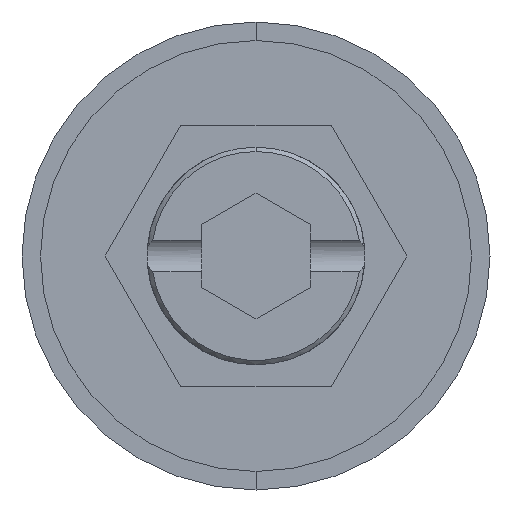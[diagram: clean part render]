
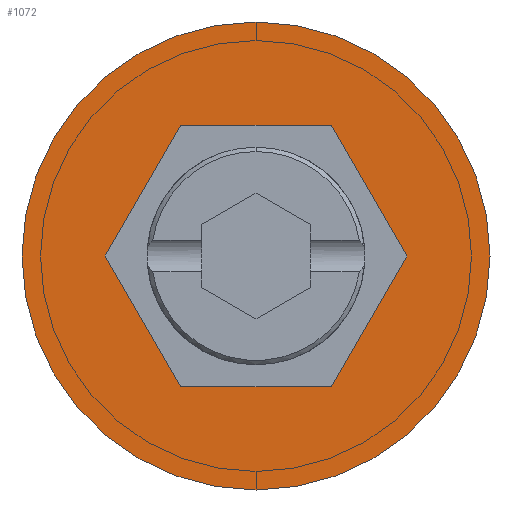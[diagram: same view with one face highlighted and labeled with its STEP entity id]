
A CAD part, front view. The second image highlights one B-rep face of the part: STEP entity #1072.
In plain terms, the highlighted planar face has unit normal (0, -1, 0).
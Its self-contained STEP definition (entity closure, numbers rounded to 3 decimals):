
#46 = CARTESIAN_POINT ( 'NONE',  ( 0., 0., 10.75 ) ) ;
#50 = EDGE_CURVE ( 'NONE', #1748, #2158, #1175, .T. ) ;
#86 = LINE ( 'NONE', #592, #110 ) ;
#94 = PLANE ( 'NONE',  #2105 ) ;
#101 = AXIS2_PLACEMENT_3D ( 'NONE', #620, #629, #630 ) ;
#110 = VECTOR ( 'NONE', #609, 1000. ) ;
#122 = DIRECTION ( 'NONE',  ( 0., -1., 0. ) ) ;
#130 = DIRECTION ( 'NONE',  ( 0., 0., -1. ) ) ;
#134 = CARTESIAN_POINT ( 'NONE',  ( -3.464, 0., -6. ) ) ;
#153 = ORIENTED_EDGE ( 'NONE', *, *, #1873, .F. ) ;
#160 = ORIENTED_EDGE ( 'NONE', *, *, #1137, .F. ) ;
#161 = ORIENTED_EDGE ( 'NONE', *, *, #2164, .F. ) ;
#201 = VECTOR ( 'NONE', #274, 1000. ) ;
#213 = LINE ( 'NONE', #273, #201 ) ;
#249 = DIRECTION ( 'NONE',  ( 0., 0., -1. ) ) ;
#250 = FACE_OUTER_BOUND ( 'NONE', #691, .T. ) ;
#253 = DIRECTION ( 'NONE',  ( 1., 0., 0. ) ) ;
#257 = FACE_BOUND ( 'NONE', #454, .T. ) ;
#267 = ORIENTED_EDGE ( 'NONE', *, *, #1929, .F. ) ;
#273 = CARTESIAN_POINT ( 'NONE',  ( -3.464, 0., 6. ) ) ;
#274 = DIRECTION ( 'NONE',  ( -0.5, 0., -0.866 ) ) ;
#279 = ORIENTED_EDGE ( 'NONE', *, *, #1512, .F. ) ;
#306 = ORIENTED_EDGE ( 'NONE', *, *, #1279, .F. ) ;
#326 = ORIENTED_EDGE ( 'NONE', *, *, #1887, .T. ) ;
#344 = ORIENTED_EDGE ( 'NONE', *, *, #50, .T. ) ;
#454 = EDGE_LOOP ( 'NONE', ( #267, #279, #160, #306, #153, #161 ) ) ;
#592 = CARTESIAN_POINT ( 'NONE',  ( 3.464, 0., 6. ) ) ;
#609 = DIRECTION ( 'NONE',  ( -1., 0., 0. ) ) ;
#620 = CARTESIAN_POINT ( 'NONE',  ( 0., 0., 0. ) ) ;
#629 = DIRECTION ( 'NONE',  ( 0., -1., 0. ) ) ;
#630 = DIRECTION ( 'NONE',  ( 0., 0., -1. ) ) ;
#691 = EDGE_LOOP ( 'NONE', ( #326, #344 ) ) ;
#920 = CARTESIAN_POINT ( 'NONE',  ( 3.464, 0., -6. ) ) ;
#1072 = ADVANCED_FACE ( 'NONE', ( #257, #250 ), #94, .T. ) ;
#1137 = EDGE_CURVE ( 'NONE', #1649, #1633, #213, .T. ) ;
#1158 = DIRECTION ( 'NONE',  ( 0.5, 0., -0.866 ) ) ;
#1162 = CARTESIAN_POINT ( 'NONE',  ( -6.928, 0., 0. ) ) ;
#1175 = CIRCLE ( 'NONE', #101, 10.75 ) ;
#1279 = EDGE_CURVE ( 'NONE', #2231, #1649, #86, .T. ) ;
#1394 = CARTESIAN_POINT ( 'NONE',  ( -3.464, 0., -6. ) ) ;
#1396 = VERTEX_POINT ( 'NONE', #920 ) ;
#1460 = DIRECTION ( 'NONE',  ( 0.5, 0., 0.866 ) ) ;
#1512 = EDGE_CURVE ( 'NONE', #1633, #1598, #2237, .T. ) ;
#1540 = AXIS2_PLACEMENT_3D ( 'NONE', #2150, #1944, #249 ) ;
#1598 = VERTEX_POINT ( 'NONE', #1394 ) ;
#1605 = CARTESIAN_POINT ( 'NONE',  ( -3.464, 0., 6. ) ) ;
#1633 = VERTEX_POINT ( 'NONE', #1785 ) ;
#1649 = VERTEX_POINT ( 'NONE', #1605 ) ;
#1659 = DIRECTION ( 'NONE',  ( -0.5, 0., 0.866 ) ) ;
#1748 = VERTEX_POINT ( 'NONE', #46 ) ;
#1785 = CARTESIAN_POINT ( 'NONE',  ( -6.928, 0., 0. ) ) ;
#1827 = CARTESIAN_POINT ( 'NONE',  ( 6.928, 0., 0. ) ) ;
#1873 = EDGE_CURVE ( 'NONE', #1955, #2231, #2087, .T. ) ;
#1887 = EDGE_CURVE ( 'NONE', #2158, #1748, #2035, .T. ) ;
#1891 = CARTESIAN_POINT ( 'NONE',  ( 3.464, 0., 6. ) ) ;
#1910 = VECTOR ( 'NONE', #1460, 1000. ) ;
#1925 = LINE ( 'NONE', #2188, #1910 ) ;
#1929 = EDGE_CURVE ( 'NONE', #1598, #1396, #2021, .T. ) ;
#1944 = DIRECTION ( 'NONE',  ( 0., -1., 0. ) ) ;
#1955 = VERTEX_POINT ( 'NONE', #1827 ) ;
#1979 = CARTESIAN_POINT ( 'NONE',  ( 6.928, 0., 0. ) ) ;
#2005 = VECTOR ( 'NONE', #253, 1000. ) ;
#2021 = LINE ( 'NONE', #134, #2005 ) ;
#2035 = CIRCLE ( 'NONE', #1540, 10.75 ) ;
#2051 = VECTOR ( 'NONE', #1659, 1000. ) ;
#2087 = LINE ( 'NONE', #1979, #2051 ) ;
#2105 = AXIS2_PLACEMENT_3D ( 'NONE', #2247, #122, #130 ) ;
#2150 = CARTESIAN_POINT ( 'NONE',  ( 0., 0., 0. ) ) ;
#2158 = VERTEX_POINT ( 'NONE', #2208 ) ;
#2164 = EDGE_CURVE ( 'NONE', #1396, #1955, #1925, .T. ) ;
#2188 = CARTESIAN_POINT ( 'NONE',  ( 3.464, 0., -6. ) ) ;
#2208 = CARTESIAN_POINT ( 'NONE',  ( 0., 0., -10.75 ) ) ;
#2223 = VECTOR ( 'NONE', #1158, 1000. ) ;
#2231 = VERTEX_POINT ( 'NONE', #1891 ) ;
#2237 = LINE ( 'NONE', #1162, #2223 ) ;
#2247 = CARTESIAN_POINT ( 'NONE',  ( 0., 0., 0. ) ) ;
